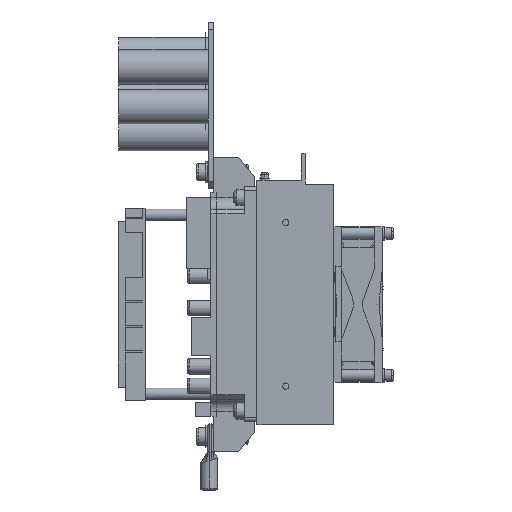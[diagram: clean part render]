
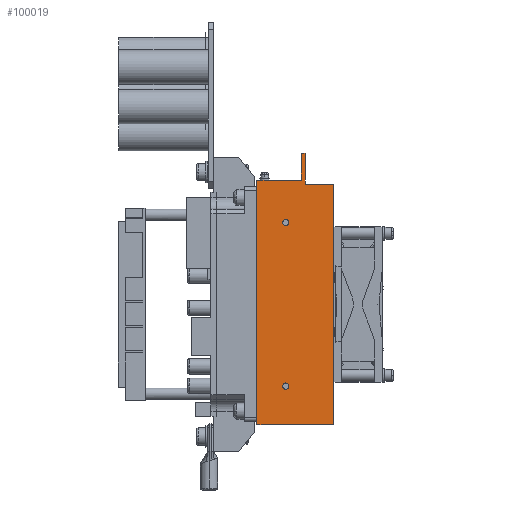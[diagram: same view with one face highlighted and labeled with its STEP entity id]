
A CAD part, left-side view. The second image highlights one B-rep face of the part: STEP entity #100019.
In plain terms, the highlighted planar face has unit normal (-1, 0, 0).
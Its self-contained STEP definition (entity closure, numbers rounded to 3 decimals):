
#398 = EDGE_CURVE ( 'NONE', #113475, #100924, #80779, .T. ) ;
#2226 = EDGE_CURVE ( 'NONE', #48117, #106384, #102466, .T. ) ;
#3026 = CARTESIAN_POINT ( 'NONE',  ( -125., 48.368, -42.5 ) ) ;
#4137 = DIRECTION ( 'NONE',  ( 0., -1., 0. ) ) ;
#4436 = CIRCLE ( 'NONE', #89916, 1.632 ) ;
#4857 = CARTESIAN_POINT ( 'NONE',  ( -125., 25., 62.5 ) ) ;
#6201 = CARTESIAN_POINT ( 'NONE',  ( -125., 40., 78.5 ) ) ;
#7230 = EDGE_LOOP ( 'NONE', ( #110041, #108085 ) ) ;
#7342 = FACE_BOUND ( 'NONE', #21189, .T. ) ;
#7651 = CARTESIAN_POINT ( 'NONE',  ( -125., 48.368, 42.5 ) ) ;
#8146 = CIRCLE ( 'NONE', #76203, 1.632 ) ;
#8169 = DIRECTION ( 'NONE',  ( 0., -1., 0. ) ) ;
#13651 = DIRECTION ( 'NONE',  ( 0., 0., 1. ) ) ;
#14441 = DIRECTION ( 'NONE',  ( 0., -1., 0. ) ) ;
#14852 = VECTOR ( 'NONE', #13651, 1000. ) ;
#15414 = CARTESIAN_POINT ( 'NONE',  ( -125., 55., 64.5 ) ) ;
#17521 = VERTEX_POINT ( 'NONE', #20385 ) ;
#17876 = VECTOR ( 'NONE', #51393, 1000. ) ;
#20385 = CARTESIAN_POINT ( 'NONE',  ( -125., 65., 64.5 ) ) ;
#21189 = EDGE_LOOP ( 'NONE', ( #71518, #33126 ) ) ;
#21699 = CARTESIAN_POINT ( 'NONE',  ( -125., 51.632, -42.5 ) ) ;
#23331 = DIRECTION ( 'NONE',  ( 1., 0., 0. ) ) ;
#24029 = CARTESIAN_POINT ( 'NONE',  ( -125., 42., 78.5 ) ) ;
#24820 = LINE ( 'NONE', #15414, #109978 ) ;
#24844 = VERTEX_POINT ( 'NONE', #7651 ) ;
#25115 = EDGE_CURVE ( 'NONE', #106384, #113475, #38194, .T. ) ;
#25529 = CARTESIAN_POINT ( 'NONE',  ( -125., 65., 62.5 ) ) ;
#25926 = CARTESIAN_POINT ( 'NONE',  ( -125., 42., 62.5 ) ) ;
#26992 = CARTESIAN_POINT ( 'NONE',  ( -125., 42., 64.5 ) ) ;
#28264 = DIRECTION ( 'NONE',  ( 0., 1., 0. ) ) ;
#30656 = VERTEX_POINT ( 'NONE', #6201 ) ;
#33126 = ORIENTED_EDGE ( 'NONE', *, *, #82051, .T. ) ;
#34731 = DIRECTION ( 'NONE',  ( 0., 0., -1. ) ) ;
#36725 = CARTESIAN_POINT ( 'NONE',  ( -125., 65., -62.5 ) ) ;
#38194 = LINE ( 'NONE', #4857, #14852 ) ;
#39889 = CARTESIAN_POINT ( 'NONE',  ( -125., 25., 62.5 ) ) ;
#44148 = DIRECTION ( 'NONE',  ( 1., 0., 0. ) ) ;
#44756 = AXIS2_PLACEMENT_3D ( 'NONE', #75918, #23331, #84777 ) ;
#45407 = ORIENTED_EDGE ( 'NONE', *, *, #108152, .F. ) ;
#48117 = VERTEX_POINT ( 'NONE', #36725 ) ;
#50126 = DIRECTION ( 'NONE',  ( -1., 0., 0. ) ) ;
#50896 = CARTESIAN_POINT ( 'NONE',  ( -125., 25., -62.5 ) ) ;
#51393 = DIRECTION ( 'NONE',  ( 0., 0., 1. ) ) ;
#51951 = VECTOR ( 'NONE', #28264, 1000. ) ;
#52544 = DIRECTION ( 'NONE',  ( 1., 0., 0. ) ) ;
#52954 = VECTOR ( 'NONE', #14441, 1000. ) ;
#53097 = CIRCLE ( 'NONE', #44756, 1.632 ) ;
#54040 = FACE_OUTER_BOUND ( 'NONE', #85452, .T. ) ;
#56695 = DIRECTION ( 'NONE',  ( 1., 0., 0. ) ) ;
#60044 = EDGE_CURVE ( 'NONE', #70516, #24844, #91842, .T. ) ;
#60167 = CARTESIAN_POINT ( 'NONE',  ( -125., 40., 62.5 ) ) ;
#60699 = CARTESIAN_POINT ( 'NONE',  ( -125., 42., 78.5 ) ) ;
#61541 = EDGE_CURVE ( 'NONE', #109501, #111091, #84685, .T. ) ;
#64554 = LINE ( 'NONE', #60167, #17876 ) ;
#66179 = VECTOR ( 'NONE', #8169, 1000. ) ;
#66585 = CARTESIAN_POINT ( 'NONE',  ( -125., 55., 62.5 ) ) ;
#66789 = VECTOR ( 'NONE', #34731, 1000. ) ;
#66935 = ORIENTED_EDGE ( 'NONE', *, *, #2226, .T. ) ;
#67143 = AXIS2_PLACEMENT_3D ( 'NONE', #66585, #50126, #111544 ) ;
#67362 = ORIENTED_EDGE ( 'NONE', *, *, #61541, .T. ) ;
#67728 = EDGE_CURVE ( 'NONE', #100924, #30656, #64554, .T. ) ;
#68316 = EDGE_CURVE ( 'NONE', #111091, #17521, #24820, .T. ) ;
#70516 = VERTEX_POINT ( 'NONE', #71271 ) ;
#71271 = CARTESIAN_POINT ( 'NONE',  ( -125., 51.632, 42.5 ) ) ;
#71518 = ORIENTED_EDGE ( 'NONE', *, *, #79517, .T. ) ;
#74050 = VERTEX_POINT ( 'NONE', #21699 ) ;
#74563 = FACE_BOUND ( 'NONE', #7230, .T. ) ;
#75535 = ORIENTED_EDGE ( 'NONE', *, *, #25115, .T. ) ;
#75918 = CARTESIAN_POINT ( 'NONE',  ( -125., 50., -42.5 ) ) ;
#76186 = PLANE ( 'NONE',  #67143 ) ;
#76203 = AXIS2_PLACEMENT_3D ( 'NONE', #109300, #56695, #4137 ) ;
#79517 = EDGE_CURVE ( 'NONE', #91933, #74050, #8146, .T. ) ;
#80779 = LINE ( 'NONE', #113841, #51951 ) ;
#81331 = ORIENTED_EDGE ( 'NONE', *, *, #67728, .T. ) ;
#82051 = EDGE_CURVE ( 'NONE', #74050, #91933, #53097, .T. ) ;
#84685 = LINE ( 'NONE', #25926, #66789 ) ;
#84777 = DIRECTION ( 'NONE',  ( 0., -1., 0. ) ) ;
#85452 = EDGE_LOOP ( 'NONE', ( #111860, #102665, #66935, #75535, #112144, #81331, #45407, #67362 ) ) ;
#85653 = DIRECTION ( 'NONE',  ( 0., 1., 0. ) ) ;
#88073 = CARTESIAN_POINT ( 'NONE',  ( -125., 55., -62.5 ) ) ;
#89916 = AXIS2_PLACEMENT_3D ( 'NONE', #105172, #52544, #114032 ) ;
#91842 = CIRCLE ( 'NONE', #107690, 1.632 ) ;
#91933 = VERTEX_POINT ( 'NONE', #3026 ) ;
#95097 = LINE ( 'NONE', #60699, #66179 ) ;
#95201 = VECTOR ( 'NONE', #95804, 1000. ) ;
#95804 = DIRECTION ( 'NONE',  ( 0., 0., -1. ) ) ;
#96740 = CARTESIAN_POINT ( 'NONE',  ( -125., 50., 42.5 ) ) ;
#97951 = LINE ( 'NONE', #25529, #95201 ) ;
#100019 = ADVANCED_FACE ( 'NONE', ( #54040, #7342, #74563 ), #76186, .T. ) ;
#100924 = VERTEX_POINT ( 'NONE', #109379 ) ;
#102466 = LINE ( 'NONE', #88073, #52954 ) ;
#102665 = ORIENTED_EDGE ( 'NONE', *, *, #107586, .T. ) ;
#105172 = CARTESIAN_POINT ( 'NONE',  ( -125., 50., 42.5 ) ) ;
#105603 = DIRECTION ( 'NONE',  ( 0., -1., 0. ) ) ;
#106384 = VERTEX_POINT ( 'NONE', #50896 ) ;
#107260 = EDGE_CURVE ( 'NONE', #24844, #70516, #4436, .T. ) ;
#107586 = EDGE_CURVE ( 'NONE', #17521, #48117, #97951, .T. ) ;
#107690 = AXIS2_PLACEMENT_3D ( 'NONE', #96740, #44148, #105603 ) ;
#108085 = ORIENTED_EDGE ( 'NONE', *, *, #60044, .T. ) ;
#108152 = EDGE_CURVE ( 'NONE', #109501, #30656, #95097, .T. ) ;
#109300 = CARTESIAN_POINT ( 'NONE',  ( -125., 50., -42.5 ) ) ;
#109379 = CARTESIAN_POINT ( 'NONE',  ( -125., 40., 62.5 ) ) ;
#109501 = VERTEX_POINT ( 'NONE', #24029 ) ;
#109978 = VECTOR ( 'NONE', #85653, 1000. ) ;
#110041 = ORIENTED_EDGE ( 'NONE', *, *, #107260, .T. ) ;
#111091 = VERTEX_POINT ( 'NONE', #26992 ) ;
#111544 = DIRECTION ( 'NONE',  ( 0., -1., 0. ) ) ;
#111860 = ORIENTED_EDGE ( 'NONE', *, *, #68316, .T. ) ;
#112144 = ORIENTED_EDGE ( 'NONE', *, *, #398, .T. ) ;
#113475 = VERTEX_POINT ( 'NONE', #39889 ) ;
#113841 = CARTESIAN_POINT ( 'NONE',  ( -125., 55., 62.5 ) ) ;
#114032 = DIRECTION ( 'NONE',  ( 0., -1., 0. ) ) ;
